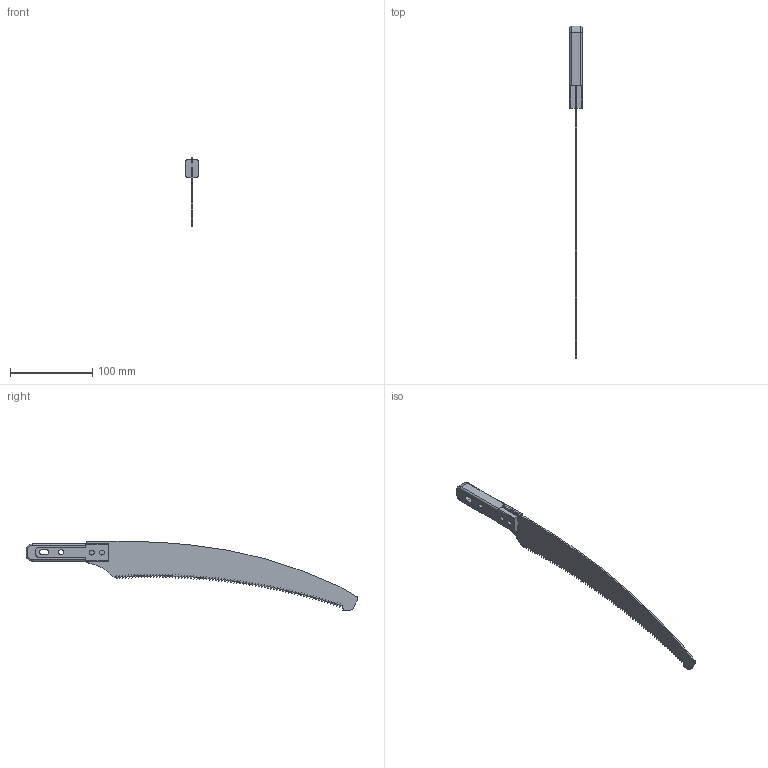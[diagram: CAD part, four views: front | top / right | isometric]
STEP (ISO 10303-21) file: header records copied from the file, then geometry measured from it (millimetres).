
FILE_DESCRIPTION (( 'STEP AP214' ), '1' );
FILE_NAME ('PRO TREE SAW 330MM.STEP', '2026-05-25T08:44:24', ( '' ), ( '' ), 'SwSTEP 2.0', 'SolidWorks 2025', '' );
FILE_SCHEMA (( 'AUTOMOTIVE_DESIGN' ));
Length unit declared in the file: millimetre
Products named in the file (4): RIVET; SAW BLADE 330mm; PRO TREE SAW 330MM; Wooden handle
Assembly tree (4 placements, depth 2):
  PRO TREE SAW 330MM
    SAW BLADE 330mm
    Wooden handle
    RIVET  x2
Bounding box: 15 x 402.78 x 84.65 mm (x, y, z)
Volume: 49953.6 mm3; surface area: 38042 mm2
Topology: 5 solids, 5 shells, 422 faces, 1115 edges, 703 vertices
Faces by surface type: plane 335, cylinder 83, torus 4
Entity records: 17004 total; most frequent: CARTESIAN_POINT 2446, ORIENTED_EDGE 2218, DIRECTION 1984, EDGE_CURVE 1109, VECTOR 942, LINE 942, VERTEX_POINT 699, AXIS2_PLACEMENT_3D 521
